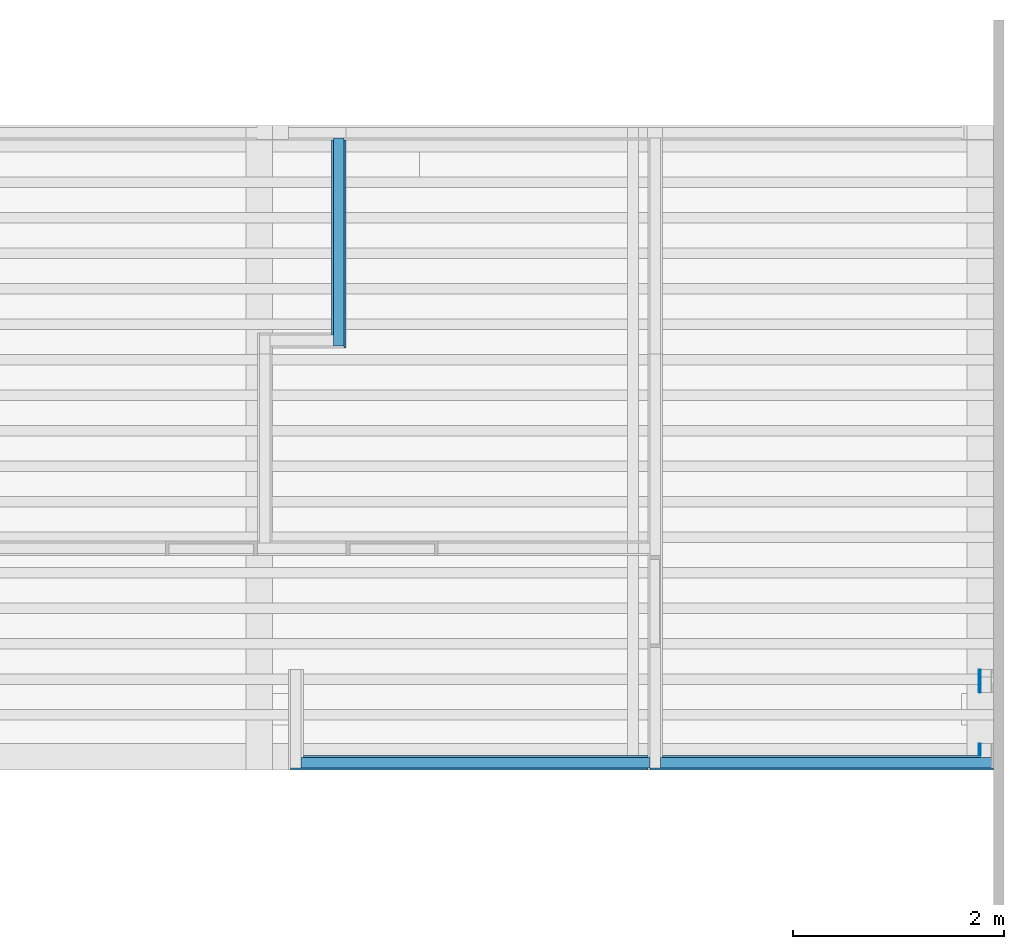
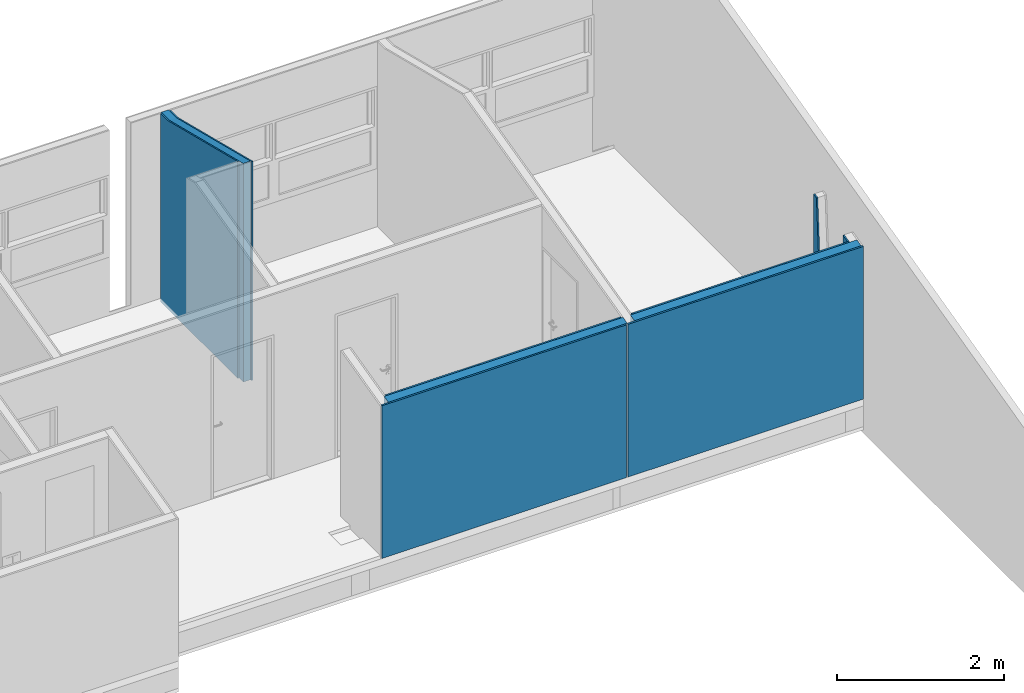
# One storey, part 11 of 13: 10 building element parts, 4 elements without a shape of their own.
"""IFC2X3 building model written with IfcOpenShell, lengths in millimetres."""

import ifcopenshell
import ifcopenshell.guid

model = None  # the IFC model being written
_history = None  # IfcOwnerHistory: only IFC2X3 demands one
_inside = {}  # id of a spatial element -> (the spatial element, [elements in it])
_under = {}  # id of a project, library or spatial element -> (it, [spatial elements below it])
_declared = {}  # id of a project -> (the project, [libraries it declares])
_typed = {}  # id of a type object -> (the type object, [elements of that type])
_made_of = {}  # id of a material, layer set ... -> (it, [elements and type objects made of it])


def new_model(schema):
    """Start an empty IFC model of exactly this schema.

    Asked for "IFC4X3", IfcOpenShell would pick the latest addendum, in which some entities
    have other attributes; the version numbers below select the first issue.
    IFC2X3 requires an IfcOwnerHistory on every rooted entity: one is made here for all.
    """
    global model, _history
    if schema == "IFC4X3":
        model = ifcopenshell.file(schema_version=(4, 3, 0, 0))
    else:
        model = ifcopenshell.file(schema=schema)
    _inside.clear()
    _under.clear()
    _declared.clear()
    _typed.clear()
    _made_of.clear()
    _history = None
    if model.schema == "IFC2X3":
        org = make("IfcOrganization", Name="unknown")
        user = make(
            "IfcPersonAndOrganization",
            ThePerson=make("IfcPerson", FamilyName="unknown"),
            TheOrganization=org,
        )
        app = make(
            "IfcApplication",
            ApplicationDeveloper=org,
            Version="unknown",
            ApplicationFullName="unknown",
            ApplicationIdentifier="unknown",
        )
        _history = make(
            "IfcOwnerHistory",
            OwningUser=user,
            OwningApplication=app,
            ChangeAction="ADDED",
            CreationDate=0,
        )
    return model


def make(cls, **values):
    """One entity of the class cls with the attributes given. An attribute that is None is left unset."""
    return model.create_entity(
        cls, **{name: value for name, value in values.items() if value is not None}
    )


def entity(cls, *values):
    """Any entity or typed value of the class cls, its attributes in the order of the schema. None: left unset."""
    e = model.create_entity(cls)
    for i, value in enumerate(values):
        if value is not None:
            e[i] = value
    return e


def rooted(cls, **values):
    """An entity with a GlobalId (a new one), such as an element, a storey or a relation."""
    return make(cls, GlobalId=ifcopenshell.guid.new(), OwnerHistory=_history, **values)


def si_unit(unit_type, name, prefix=None):
    """IfcSIUnit, for example si_unit("LENGTHUNIT", "METRE", prefix="MILLI")."""
    return make("IfcSIUnit", UnitType=unit_type, Prefix=prefix, Name=name)


def converted_unit(unit_type, name, factor, base, dimensions=None, offset=None):
    """IfcConversionBasedUnit, such as the inch: factor (a typed value) times the base unit."""
    return make(
        "IfcConversionBasedUnit"
        if offset is None
        else "IfcConversionBasedUnitWithOffset",
        ConversionOffset=offset,
        Dimensions=None
        if dimensions is None
        else entity("IfcDimensionalExponents", *dimensions),
        UnitType=unit_type,
        Name=name,
        ConversionFactor=make(
            "IfcMeasureWithUnit", ValueComponent=factor, UnitComponent=base
        ),
    )


def derived_unit(unit_type, elements):
    """IfcDerivedUnit: a product of units, each with its exponent."""
    return make(
        "IfcDerivedUnit",
        Elements=[
            make("IfcDerivedUnitElement", Unit=unit, Exponent=power)
            for unit, power in elements
        ],
        UnitType=unit_type,
    )


def money_unit(currency):
    """IfcMonetaryUnit."""
    return make("IfcMonetaryUnit", Currency=currency)


def assignment(units):
    """IfcUnitAssignment: the units of a project."""
    return None if units is None else make("IfcUnitAssignment", Units=units)


def point(xyz):
    """IfcCartesianPoint."""
    return None if xyz is None else make("IfcCartesianPoint", Coordinates=xyz)


def direction(xyz):
    """IfcDirection."""
    return None if xyz is None else make("IfcDirection", DirectionRatios=xyz)


def frame(location, z_axis=None, x_axis=None):
    """IfcAxis2Placement3D, a coordinate frame: its origin and axes. An axis left out is left unset."""
    return make(
        "IfcAxis2Placement3D",
        Location=point(location),
        Axis=direction(z_axis),
        RefDirection=direction(x_axis),
    )


def origin_with_axes():
    """The frame at (0, 0, 0) with the z axis (0, 0, 1) and the x axis (1, 0, 0) written out."""
    return frame((0.0, 0.0, 0.0), z_axis=(0.0, 0.0, 1.0), x_axis=(1.0, 0.0, 0.0))


def place(relative_to, where):
    """IfcLocalPlacement: puts the frame where relative to a parent placement (None: the world)."""
    return make(
        "IfcLocalPlacement", PlacementRelTo=relative_to, RelativePlacement=where
    )


def context(
    kind, dimensions, precision=None, world=None, true_north=None, identifier=None
):
    """IfcGeometricRepresentationContext, for example the 3D "Model" context."""
    return make(
        "IfcGeometricRepresentationContext",
        ContextIdentifier=identifier,
        ContextType=kind,
        CoordinateSpaceDimension=dimensions,
        Precision=precision,
        WorldCoordinateSystem=world,
        TrueNorth=true_north,
    )


def subcontext(parent, identifier, kind, view, scale=None):
    """IfcGeometricRepresentationSubContext, for example "Body" below "Model"."""
    return make(
        "IfcGeometricRepresentationSubContext",
        ContextIdentifier=identifier,
        ContextType=kind,
        ParentContext=parent,
        TargetScale=scale,
        TargetView=view,
    )


def project(units=None, contexts=None):
    """IfcProject with its units and contexts."""
    return rooted(
        "IfcProject",
        Name="project",
        RepresentationContexts=contexts,
        UnitsInContext=assignment(units),
    )


def spatial(cls, under=None, at=None, **own):
    """A site, building, storey or space (cls), placed at a placement, below another one or the project."""
    s = rooted(cls, ObjectPlacement=at, **own)
    if under is not None:
        _under.setdefault(under.id(), (under, []))[1].append(s)
    return s


def polyline(points):
    """IfcPolyline through the points."""
    return make("IfcPolyline", Points=[point(p) for p in points])


def outline(outer, holes=None, kind="AREA"):
    """IfcArbitraryClosedProfileDef: a profile drawn as a closed curve; with holes, ...WithVoids."""
    if holes is None:
        return make("IfcArbitraryClosedProfileDef", ProfileType=kind, OuterCurve=outer)
    return make(
        "IfcArbitraryProfileDefWithVoids",
        ProfileType=kind,
        OuterCurve=outer,
        InnerCurves=holes,
    )


def extrude(swept, where, along, depth):
    """IfcExtrudedAreaSolid: the profile swept, set in the frame where, extruded along a direction by depth."""
    return make(
        "IfcExtrudedAreaSolid",
        SweptArea=swept,
        Position=where,
        ExtrudedDirection=direction(along),
        Depth=depth,
    )


def boolean(op, a, b):
    """IfcBooleanResult of two solids."""
    return make("IfcBooleanResult", Operator=op, FirstOperand=a, SecondOperand=b)


def faces_of(points, faces, orient=None, outer=None):
    """IfcFace entities. A face is a list of loops; a loop is a list of indices into points, from 0.

    orient and outer hold one flag for each loop. By default every Orientation is true, the
    first loop of a face is its IfcFaceOuterBound and the others are IfcFaceBound.
    """
    made = []
    for i, loops in enumerate(faces):
        bounds = []
        for j, loop in enumerate(loops):
            is_outer = j == 0 if outer is None else outer[i][j]
            bounds.append(
                make(
                    "IfcFaceOuterBound" if is_outer else "IfcFaceBound",
                    Bound=make("IfcPolyLoop", Polygon=[points[k] for k in loop]),
                    Orientation=True if orient is None else orient[i][j],
                )
            )
        made.append(make("IfcFace", Bounds=bounds))
    return made


def faceted_brep(points, faces, orient=None, outer=None, voids=None):
    """IfcFacetedBrep: a solid bounded by flat faces; with voids (closed shells), ...WithVoids."""
    shared = [point(p) for p in points]
    hull = make("IfcClosedShell", CfsFaces=faces_of(shared, faces, orient, outer))
    if voids is None:
        return make("IfcFacetedBrep", Outer=hull)
    return make(
        "IfcFacetedBrepWithVoids",
        Outer=hull,
        Voids=[
            make(cls, CfsFaces=faces_of(shared, fs, o, b)) for cls, fs, o, b in voids
        ],
    )


def shape(context_of_items, identifier, shape_type, items):
    """IfcShapeRepresentation: the items that make up one representation, for example the "Body"."""
    return make(
        "IfcShapeRepresentation",
        ContextOfItems=context_of_items,
        RepresentationIdentifier=identifier,
        RepresentationType=shape_type,
        Items=items,
    )


def material(Name=None, Category=None):
    """IfcMaterial."""
    return make("IfcMaterial", Name=Name, Category=Category)


def made_of(thing, what):
    """Note that an element or type object is made of a material, layer set ...; save() writes the relation."""
    if what is not None:
        _made_of.setdefault(what.id(), (what, []))[1].append(thing)
    return thing


def type_object(cls, material=None, **own):
    """A type object (cls), such as IfcWallType, which elements share."""
    return made_of(rooted(cls, **own), material)


def element(
    cls,
    number,
    at=None,
    inside=None,
    cuts=None,
    type_object=None,
    material=None,
    context=None,
    identifier="Body",
    shape_type=None,
    held_by="IfcProductDefinitionShape",
    body=None,
    shapes=None,
    **own,
):
    """One element of the class cls, such as IfcWall. Its Tag is "e" and its number.

    at: its placement. inside: the storey or other place that contains it. cuts: it is an
    opening in that element (IfcRelVoidsElement). A single representation is given by context,
    identifier, shape_type and body (its items); several are given by shapes. held_by: the class
    of the entity that holds the representations. save() writes the other relations.
    """
    e = rooted(cls, Tag="e%d" % number, ObjectPlacement=at, **own)
    if body is not None:
        shapes = [shape(context, identifier, shape_type, body)]
    if shapes is not None:
        e.Representation = make(held_by, Representations=shapes)
    if inside is not None:
        _inside.setdefault(inside.id(), (inside, []))[1].append(e)
    if cuts is not None:
        rooted(
            "IfcRelVoidsElement", RelatingBuildingElement=cuts, RelatedOpeningElement=e
        )
    if type_object is not None:
        _typed.setdefault(type_object.id(), (type_object, []))[1].append(e)
    return made_of(e, material)


def aggregate(whole, parts):
    """IfcRelAggregates: a whole, such as a stair, and the parts it consists of."""
    return rooted("IfcRelAggregates", RelatingObject=whole, RelatedObjects=parts)


def save(model, path):
    """Write the relations noted so far, then the file.

    IfcRelAggregates (storeys below a building ...), IfcRelContainedInSpatialStructure (elements
    in a storey), IfcRelDefinesByType, IfcRelAssociatesMaterial and IfcRelDeclares: one each for
    every whole, place, type object, material and project.
    """
    for whole, parts in _under.values():
        aggregate(whole, parts)
    for where, things in _inside.values():
        rooted(
            "IfcRelContainedInSpatialStructure",
            RelatedElements=things,
            RelatingStructure=where,
        )
    for kind, things in _typed.values():
        rooted("IfcRelDefinesByType", RelatedObjects=things, RelatingType=kind)
    for what, things in _made_of.values():
        rooted("IfcRelAssociatesMaterial", RelatedObjects=things, RelatingMaterial=what)
    for by, libraries in _declared.values():
        rooted("IfcRelDeclares", RelatingContext=by, RelatedDefinitions=libraries)
    model.write(path)


model = new_model("IFC2X3")

# Units and contexts
model_context = context("Model", 3, precision=0.01, world=origin_with_axes(), true_north=direction((0.293984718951, 0.955810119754)))
body_context = subcontext(model_context, "Body", "Model", "MODEL_VIEW")
ifc_project = project(units=[si_unit("LENGTHUNIT", "METRE", prefix="MILLI"), si_unit("AREAUNIT", "SQUARE_METRE"), si_unit("VOLUMEUNIT", "CUBIC_METRE"), converted_unit("PLANEANGLEUNIT", "DEGREE", entity("IfcPlaneAngleMeasure", 0.0174532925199), si_unit("PLANEANGLEUNIT", "RADIAN"), dimensions=[0, 0, 0, 0, 0, 0, 0]), si_unit("SOLIDANGLEUNIT", "STERADIAN"), money_unit("USD"), converted_unit("TIMEUNIT", "Year", entity("IfcTimeMeasure", 31556926.0), si_unit("TIMEUNIT", "SECOND"), dimensions=[0, 0, 1, 0, 0, 0, 0]), si_unit("MASSUNIT", "GRAM", prefix="KILO"), si_unit("THERMODYNAMICTEMPERATUREUNIT", "DEGREE_CELSIUS"), si_unit("LUMINOUSINTENSITYUNIT", "LUMEN"), si_unit("ENERGYUNIT", "JOULE", prefix="MEGA"), derived_unit("THERMALCONDUCTANCEUNIT", [(si_unit("POWERUNIT", "WATT"), 1), (si_unit("LENGTHUNIT", "METRE"), -1), (si_unit("THERMODYNAMICTEMPERATUREUNIT", "KELVIN"), -1)]), derived_unit("SPECIFICHEATCAPACITYUNIT", [(si_unit("ENERGYUNIT", "JOULE"), 1), (si_unit("MASSUNIT", "GRAM", prefix="KILO"), -1), (si_unit("THERMODYNAMICTEMPERATUREUNIT", "KELVIN"), -1)]), derived_unit("MASSDENSITYUNIT", [(si_unit("MASSUNIT", "GRAM", prefix="KILO"), 1), (si_unit("VOLUMEUNIT", "CUBIC_METRE"), -1)])], contexts=[model_context])

# Site, building, storey
site_placement = place(None, origin_with_axes())
site = spatial("IfcSite", under=ifc_project, at=site_placement, Name="Local", CompositionType="ELEMENT")
building_placement = place(site_placement, origin_with_axes())
building = spatial("IfcBuilding", under=site, at=building_placement, Name="Construção", CompositionType="ELEMENT")
storey_placement = place(building_placement, frame((0.0, 0.0, 3050.0), z_axis=(0.0, 0.0, 1.0), x_axis=(1.0, 0.0, 0.0)))
storey = spatial("IfcBuildingStorey", under=building, at=storey_placement, Name="Primeiro Pavimento", CompositionType="ELEMENT", Elevation=3050.0)

# Wall, building element parts
wall_type = type_object("IfcWallType", Name="Alvenaria Tijolo Maciço com Revestimento 14cm 140", PredefinedType="NOTDEFINED")
wall_1_placement = place(storey_placement, frame((14454.6450727, 12950.6321979, 0.0), z_axis=(0.0, 0.0, 1.0), x_axis=(0.0, -1.0, 0.0)))
wall_1 = element("IfcWall", 1, at=wall_1_placement, inside=storey, type_object=wall_type, Name="Parede")
ifc_material_1 = material(Name="Reboco (1)")
building_element_part_1_placement = place(wall_1_placement, origin_with_axes())
building_element_part_1 = element("IfcBuildingElementPart", 2, at=building_element_part_1_placement, material=ifc_material_1, Name="Reboco (1)", context=body_context, shape_type="CSG", body=[
    boolean("DIFFERENCE", boolean("DIFFERENCE", boolean("DIFFERENCE", extrude(outline(polyline([(-9.18554121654e-09, -70.0), (2105.0, -70.0), (2105.0, -50.0), (-9.18554121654e-09, -50.0), (-9.18554121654e-09, -70.0)])), origin_with_axes(), (0.0, 0.0, 1.0), 3211.87314734), faceted_brep([(1985.0, -50.0, 3167.41155691), (310.825699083, -50.0, 2749.9930219), (139.999999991, -50.0, 2749.99302172), (139.999999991, -50.0, 0.0), (-9.18554121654e-09, -50.0, 0.0), (-9.18554121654e-09, -50.0, 3211.87314734), (2105.0, -50.0, 3211.87314734), (2105.0, -50.0, 0.0), (1985.0, -50.0, 0.0), (1985.0, -70.0, 3167.41155691), (310.825699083, -70.0, 2749.9930219), (139.999999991, -70.0, 2749.99302172), (139.999999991, -70.0, 0.0), (-9.18554121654e-09, -70.0, 0.0), (-9.18554121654e-09, -70.0, 3211.87314734), (2105.0, -70.0, 3211.87314734), (2105.0, -70.0, 0.0), (1985.0, -70.0, 0.0)], [[[0, 1, 2, 3, 4, 5, 6, 7, 8]], [[9, 10, 1, 0]], [[10, 11, 2, 1]], [[3, 2, 11, 12]], [[3, 12, 13, 4]], [[5, 4, 13, 14]], [[5, 14, 15, 6]], [[15, 16, 7, 6]], [[17, 8, 7, 16]], [[0, 8, 17, 9]], [[9, 17, 16, 15, 14, 13, 12, 11, 10]]])), faceted_brep([(310.825699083, 50.0, 2749.9930219), (119.999999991, 50.0, 2749.99302172), (119.999999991, 50.0, 0.0), (-9.18554121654e-09, 50.0, 0.0), (-9.18554121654e-09, 50.0, 3211.87314734), (2105.0, 50.0, 3211.87314734), (2105.0, 50.0, 0.0), (2085.0, 50.0, 0.0), (2085.0, 50.0, 3192.3443572), (310.825699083, -50.0, 2749.9930219), (119.999999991, -50.0, 2749.99302172), (119.999999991, -50.0, 0.0), (-9.18554121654e-09, -50.0, 0.0), (-9.18554121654e-09, -50.0, 3211.87314734), (2105.0, -50.0, 3211.87314734), (2105.0, -50.0, 0.0), (2085.0, -50.0, 0.0), (2085.0, -50.0, 3192.3443572)], [[[0, 1, 2, 3, 4, 5, 6, 7, 8]], [[1, 0, 9, 10]], [[2, 1, 10, 11]], [[2, 11, 12, 3]], [[4, 3, 12, 13]], [[4, 13, 14, 5]], [[14, 15, 6, 5]], [[16, 7, 6, 15]], [[8, 7, 16, 17]], [[17, 9, 0, 8]], [[17, 16, 15, 14, 13, 12, 11, 10, 9]]])), faceted_brep([(2105.0, 70.0, 3197.33091725), (310.825699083, 70.0, 2749.9930219), (139.999999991, 70.0, 2749.99302172), (139.999999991, 70.0, 0.0), (-9.18554121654e-09, 70.0, 0.0), (-9.18554121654e-09, 70.0, 3211.87314734), (2105.0, 70.0, 3211.87314734), (2105.0, 50.0, 3197.33091725), (310.825699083, 50.0, 2749.9930219), (139.999999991, 50.0, 2749.99302174), (139.999999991, 50.0, 0.0), (-9.18554121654e-09, 50.0, 0.0), (-9.18554121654e-09, 50.0, 3211.87314734), (2105.0, 50.0, 3211.87314734)], [[[0, 1, 2, 3, 4, 5, 6]], [[1, 0, 7, 8]], [[2, 1, 8, 9]], [[3, 2, 9, 10]], [[3, 10, 11, 4]], [[5, 4, 11, 12]], [[5, 12, 13, 6]], [[7, 0, 6, 13]], [[7, 13, 12, 11, 10, 9, 8]]])),
])
ifc_material_2 = material(Name="Tijolo - Estrutural (1)")
building_element_part_2_placement = place(wall_1_placement, origin_with_axes())
building_element_part_2 = element("IfcBuildingElementPart", 3, at=building_element_part_2_placement, material=ifc_material_2, Name="Tijolo - Estrutural (1)", context=body_context, shape_type="CSG", body=[
    boolean("DIFFERENCE", boolean("DIFFERENCE", boolean("DIFFERENCE", extrude(outline(polyline([(-9.18554121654e-09, -50.0), (2105.0, -50.0), (2105.0, 50.0), (-9.18554121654e-09, 50.0), (-9.18554121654e-09, -50.0)])), origin_with_axes(), (0.0, 0.0, 1.0), 3211.87314734), faceted_brep([(1985.0, -50.0, 3167.41155691), (310.825699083, -50.0, 2749.9930219), (139.999999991, -50.0, 2749.99302172), (139.999999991, -50.0, 0.0), (-9.18554121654e-09, -50.0, 0.0), (-9.18554121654e-09, -50.0, 3211.87314734), (2105.0, -50.0, 3211.87314734), (2105.0, -50.0, 0.0), (1985.0, -50.0, 0.0), (1985.0, -70.0, 3167.41155691), (310.825699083, -70.0, 2749.9930219), (139.999999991, -70.0, 2749.99302172), (139.999999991, -70.0, 0.0), (-9.18554121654e-09, -70.0, 0.0), (-9.18554121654e-09, -70.0, 3211.87314734), (2105.0, -70.0, 3211.87314734), (2105.0, -70.0, 0.0), (1985.0, -70.0, 0.0)], [[[0, 1, 2, 3, 4, 5, 6, 7, 8]], [[9, 10, 1, 0]], [[10, 11, 2, 1]], [[3, 2, 11, 12]], [[3, 12, 13, 4]], [[5, 4, 13, 14]], [[5, 14, 15, 6]], [[15, 16, 7, 6]], [[17, 8, 7, 16]], [[0, 8, 17, 9]], [[9, 17, 16, 15, 14, 13, 12, 11, 10]]])), faceted_brep([(310.825699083, 50.0, 2749.9930219), (119.999999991, 50.0, 2749.99302172), (119.999999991, 50.0, 0.0), (-9.18554121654e-09, 50.0, 0.0), (-9.18554121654e-09, 50.0, 3211.87314734), (2105.0, 50.0, 3211.87314734), (2105.0, 50.0, 0.0), (2085.0, 50.0, 0.0), (2085.0, 50.0, 3192.3443572), (310.825699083, -50.0, 2749.9930219), (119.999999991, -50.0, 2749.99302172), (119.999999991, -50.0, 0.0), (-9.18554121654e-09, -50.0, 0.0), (-9.18554121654e-09, -50.0, 3211.87314734), (2105.0, -50.0, 3211.87314734), (2105.0, -50.0, 0.0), (2085.0, -50.0, 0.0), (2085.0, -50.0, 3192.3443572)], [[[0, 1, 2, 3, 4, 5, 6, 7, 8]], [[1, 0, 9, 10]], [[2, 1, 10, 11]], [[2, 11, 12, 3]], [[4, 3, 12, 13]], [[4, 13, 14, 5]], [[14, 15, 6, 5]], [[16, 7, 6, 15]], [[8, 7, 16, 17]], [[17, 9, 0, 8]], [[17, 16, 15, 14, 13, 12, 11, 10, 9]]])), faceted_brep([(2105.0, 70.0, 3197.33091725), (310.825699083, 70.0, 2749.9930219), (139.999999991, 70.0, 2749.99302172), (139.999999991, 70.0, 0.0), (-9.18554121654e-09, 70.0, 0.0), (-9.18554121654e-09, 70.0, 3211.87314734), (2105.0, 70.0, 3211.87314734), (2105.0, 50.0, 3197.33091725), (310.825699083, 50.0, 2749.9930219), (139.999999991, 50.0, 2749.99302174), (139.999999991, 50.0, 0.0), (-9.18554121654e-09, 50.0, 0.0), (-9.18554121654e-09, 50.0, 3211.87314734), (2105.0, 50.0, 3211.87314734)], [[[0, 1, 2, 3, 4, 5, 6]], [[1, 0, 7, 8]], [[2, 1, 8, 9]], [[3, 2, 9, 10]], [[3, 10, 11, 4]], [[5, 4, 11, 12]], [[5, 12, 13, 6]], [[7, 0, 6, 13]], [[7, 13, 12, 11, 10, 9, 8]]])),
])
building_element_part_3_placement = place(wall_1_placement, origin_with_axes())
building_element_part_3 = element("IfcBuildingElementPart", 4, at=building_element_part_3_placement, material=ifc_material_1, Name="Reboco (1)", context=body_context, shape_type="CSG", body=[
    boolean("DIFFERENCE", boolean("DIFFERENCE", boolean("DIFFERENCE", extrude(outline(polyline([(-9.18554121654e-09, 50.0), (2105.0, 50.0), (2105.0, 70.0), (-9.18554121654e-09, 70.0), (-9.18554121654e-09, 50.0)])), origin_with_axes(), (0.0, 0.0, 1.0), 3211.87314734), faceted_brep([(1985.0, -50.0, 3167.41155691), (310.825699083, -50.0, 2749.9930219), (139.999999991, -50.0, 2749.99302172), (139.999999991, -50.0, 0.0), (-9.18554121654e-09, -50.0, 0.0), (-9.18554121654e-09, -50.0, 3211.87314734), (2105.0, -50.0, 3211.87314734), (2105.0, -50.0, 0.0), (1985.0, -50.0, 0.0), (1985.0, -70.0, 3167.41155691), (310.825699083, -70.0, 2749.9930219), (139.999999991, -70.0, 2749.99302172), (139.999999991, -70.0, 0.0), (-9.18554121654e-09, -70.0, 0.0), (-9.18554121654e-09, -70.0, 3211.87314734), (2105.0, -70.0, 3211.87314734), (2105.0, -70.0, 0.0), (1985.0, -70.0, 0.0)], [[[0, 1, 2, 3, 4, 5, 6, 7, 8]], [[9, 10, 1, 0]], [[10, 11, 2, 1]], [[3, 2, 11, 12]], [[3, 12, 13, 4]], [[5, 4, 13, 14]], [[5, 14, 15, 6]], [[15, 16, 7, 6]], [[17, 8, 7, 16]], [[0, 8, 17, 9]], [[9, 17, 16, 15, 14, 13, 12, 11, 10]]])), faceted_brep([(310.825699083, 50.0, 2749.9930219), (119.999999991, 50.0, 2749.99302172), (119.999999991, 50.0, 0.0), (-9.18554121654e-09, 50.0, 0.0), (-9.18554121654e-09, 50.0, 3211.87314734), (2105.0, 50.0, 3211.87314734), (2105.0, 50.0, 0.0), (2085.0, 50.0, 0.0), (2085.0, 50.0, 3192.3443572), (310.825699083, -50.0, 2749.9930219), (119.999999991, -50.0, 2749.99302172), (119.999999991, -50.0, 0.0), (-9.18554121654e-09, -50.0, 0.0), (-9.18554121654e-09, -50.0, 3211.87314734), (2105.0, -50.0, 3211.87314734), (2105.0, -50.0, 0.0), (2085.0, -50.0, 0.0), (2085.0, -50.0, 3192.3443572)], [[[0, 1, 2, 3, 4, 5, 6, 7, 8]], [[1, 0, 9, 10]], [[2, 1, 10, 11]], [[2, 11, 12, 3]], [[4, 3, 12, 13]], [[4, 13, 14, 5]], [[14, 15, 6, 5]], [[16, 7, 6, 15]], [[8, 7, 16, 17]], [[17, 9, 0, 8]], [[17, 16, 15, 14, 13, 12, 11, 10, 9]]])), faceted_brep([(2105.0, 70.0, 3197.33091725), (310.825699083, 70.0, 2749.9930219), (139.999999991, 70.0, 2749.99302172), (139.999999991, 70.0, 0.0), (-9.18554121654e-09, 70.0, 0.0), (-9.18554121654e-09, 70.0, 3211.87314734), (2105.0, 70.0, 3211.87314734), (2105.0, 50.0, 3197.33091725), (310.825699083, 50.0, 2749.9930219), (139.999999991, 50.0, 2749.99302174), (139.999999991, 50.0, 0.0), (-9.18554121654e-09, 50.0, 0.0), (-9.18554121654e-09, 50.0, 3211.87314734), (2105.0, 50.0, 3211.87314734)], [[[0, 1, 2, 3, 4, 5, 6]], [[1, 0, 7, 8]], [[2, 1, 8, 9]], [[3, 2, 9, 10]], [[3, 10, 11, 4]], [[5, 4, 11, 12]], [[5, 12, 13, 6]], [[7, 0, 6, 13]], [[7, 13, 12, 11, 10, 9, 8]]])),
])
aggregate(wall_1, [building_element_part_1, building_element_part_2, building_element_part_3])

wall_2_placement = place(storey_placement, frame((17449.6450727, 6920.63219788, 0.0), z_axis=(0.0, 0.0, 1.0), x_axis=(1.0, 0.0, 0.0)))
wall_2 = element("IfcWall", 5, at=wall_2_placement, inside=storey, type_object=wall_type, Name="Parede")
building_element_part_4_placement = place(wall_2_placement, origin_with_axes())
building_element_part_4 = element("IfcBuildingElementPart", 6, at=building_element_part_4_placement, material=ifc_material_1, Name="Reboco (1)", context=body_context, shape_type="CSG", body=[
    boolean("DIFFERENCE", boolean("DIFFERENCE", boolean("DIFFERENCE", extrude(outline(polyline([(-70.0, -70.0), (3199.99999997, -70.0), (3199.99999997, -50.0), (-70.0, -50.0), (-70.0, -70.0)])), origin_with_axes(), (0.0, 0.0, 1.0), 3211.87314734), faceted_brep([(3199.99999946, -70.0000000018, 2230.35000606), (3199.99999945, -50.0, 2235.33656611), (3199.99999997, -50.0, 3211.87314734), (3199.99999997, -70.0, 3211.87314734), (-50.0, -70.0, 2230.35000606), (-50.0, -50.0, 2235.33656611), (-50.0, -50.0, 0.0), (-70.0, -50.0, 0.0), (-70.0, -50.0, 3211.87314734), (-70.0, -70.0, 3211.87314734), (-70.0, -70.0, 0.0), (-50.0, -70.0, 0.0)], [[[0, 1, 2, 3]], [[1, 0, 4, 5]], [[5, 6, 7, 8, 2, 1]], [[8, 9, 3, 2]], [[4, 0, 3, 9, 10, 11]], [[6, 5, 4, 11]], [[6, 11, 10, 7]], [[8, 7, 10, 9]]])), faceted_brep([(50.0, 50.0, 2260.2693664), (50.0, 50.0, 0.0), (-70.0, 50.0, 0.0), (-70.0, 50.0, 3211.87314734), (3199.99999997, 50.0, 3211.87314734), (3199.99999997, 50.0, 0.0), (3179.99999997, 50.0, 0.0), (3179.99999997, 50.0, 2260.2693664), (50.0, -50.0, 2235.33656611), (50.0, -50.0, 0.0), (-70.0, -50.0, 0.0), (-70.0, -50.0, 3211.87314734), (3199.99999997, -50.0, 3211.87314734), (3199.99999997, -50.0, 0.0), (3179.99999997, -50.0, 0.0), (3179.99999997, -50.0, 2235.33656611)], [[[0, 1, 2, 3, 4, 5, 6, 7]], [[1, 0, 8, 9]], [[1, 9, 10, 2]], [[3, 2, 10, 11]], [[3, 11, 12, 4]], [[12, 13, 5, 4]], [[14, 6, 5, 13]], [[7, 6, 14, 15]], [[7, 15, 8, 0]], [[15, 14, 13, 12, 11, 10, 9, 8]]])), faceted_brep([(70.0, 70.0, 2265.25592646), (70.0, 70.0, 0.0), (-70.0, 70.0, 0.0), (-70.0, 70.0, 3211.87314734), (3199.99999997, 70.0, 3211.87314734), (3199.99999997, 70.0, 0.0), (3079.99999997, 70.0, 0.0), (3079.99999997, 70.0, 2265.25592646), (70.0, 50.0, 2260.2693664), (70.0, 50.0, 0.0), (-70.0, 50.0, 0.0), (-70.0, 50.0, 3211.87314734), (3199.99999997, 50.0, 3211.87314734), (3199.99999997, 50.0, 0.0), (3079.99999997, 50.0, 0.0), (3079.99999997, 50.0, 2260.2693664)], [[[0, 1, 2, 3, 4, 5, 6, 7]], [[1, 0, 8, 9]], [[1, 9, 10, 2]], [[3, 2, 10, 11]], [[3, 11, 12, 4]], [[12, 13, 5, 4]], [[14, 6, 5, 13]], [[7, 6, 14, 15]], [[0, 7, 15, 8]], [[15, 14, 13, 12, 11, 10, 9, 8]]])),
])
building_element_part_5_placement = place(wall_2_placement, origin_with_axes())
building_element_part_5 = element("IfcBuildingElementPart", 7, at=building_element_part_5_placement, material=ifc_material_2, Name="Tijolo - Estrutural (1)", context=body_context, shape_type="CSG", body=[
    boolean("DIFFERENCE", boolean("DIFFERENCE", boolean("DIFFERENCE", extrude(outline(polyline([(-70.0, -50.0), (3199.99999997, -50.0), (3199.99999997, 50.0), (-70.0, 50.0), (-70.0, -50.0)])), origin_with_axes(), (0.0, 0.0, 1.0), 3211.87314734), faceted_brep([(3199.99999946, -70.0000000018, 2230.35000606), (3199.99999945, -50.0, 2235.33656611), (3199.99999997, -50.0, 3211.87314734), (3199.99999997, -70.0, 3211.87314734), (-50.0, -70.0, 2230.35000606), (-50.0, -50.0, 2235.33656611), (-50.0, -50.0, 0.0), (-70.0, -50.0, 0.0), (-70.0, -50.0, 3211.87314734), (-70.0, -70.0, 3211.87314734), (-70.0, -70.0, 0.0), (-50.0, -70.0, 0.0)], [[[0, 1, 2, 3]], [[1, 0, 4, 5]], [[5, 6, 7, 8, 2, 1]], [[8, 9, 3, 2]], [[4, 0, 3, 9, 10, 11]], [[6, 5, 4, 11]], [[6, 11, 10, 7]], [[8, 7, 10, 9]]])), faceted_brep([(50.0, 50.0, 2260.2693664), (50.0, 50.0, 0.0), (-70.0, 50.0, 0.0), (-70.0, 50.0, 3211.87314734), (3199.99999997, 50.0, 3211.87314734), (3199.99999997, 50.0, 0.0), (3179.99999997, 50.0, 0.0), (3179.99999997, 50.0, 2260.2693664), (50.0, -50.0, 2235.33656611), (50.0, -50.0, 0.0), (-70.0, -50.0, 0.0), (-70.0, -50.0, 3211.87314734), (3199.99999997, -50.0, 3211.87314734), (3199.99999997, -50.0, 0.0), (3179.99999997, -50.0, 0.0), (3179.99999997, -50.0, 2235.33656611)], [[[0, 1, 2, 3, 4, 5, 6, 7]], [[1, 0, 8, 9]], [[1, 9, 10, 2]], [[3, 2, 10, 11]], [[3, 11, 12, 4]], [[12, 13, 5, 4]], [[14, 6, 5, 13]], [[7, 6, 14, 15]], [[7, 15, 8, 0]], [[15, 14, 13, 12, 11, 10, 9, 8]]])), faceted_brep([(70.0, 70.0, 2265.25592646), (70.0, 70.0, 0.0), (-70.0, 70.0, 0.0), (-70.0, 70.0, 3211.87314734), (3199.99999997, 70.0, 3211.87314734), (3199.99999997, 70.0, 0.0), (3079.99999997, 70.0, 0.0), (3079.99999997, 70.0, 2265.25592646), (70.0, 50.0, 2260.2693664), (70.0, 50.0, 0.0), (-70.0, 50.0, 0.0), (-70.0, 50.0, 3211.87314734), (3199.99999997, 50.0, 3211.87314734), (3199.99999997, 50.0, 0.0), (3079.99999997, 50.0, 0.0), (3079.99999997, 50.0, 2260.2693664)], [[[0, 1, 2, 3, 4, 5, 6, 7]], [[1, 0, 8, 9]], [[1, 9, 10, 2]], [[3, 2, 10, 11]], [[3, 11, 12, 4]], [[12, 13, 5, 4]], [[14, 6, 5, 13]], [[7, 6, 14, 15]], [[0, 7, 15, 8]], [[15, 14, 13, 12, 11, 10, 9, 8]]])),
])
building_element_part_6_placement = place(wall_2_placement, origin_with_axes())
building_element_part_6 = element("IfcBuildingElementPart", 8, at=building_element_part_6_placement, material=ifc_material_1, Name="Reboco (1)", context=body_context, shape_type="CSG", body=[
    boolean("DIFFERENCE", boolean("DIFFERENCE", boolean("DIFFERENCE", extrude(outline(polyline([(-70.0, 50.0), (3199.99999997, 50.0), (3199.99999997, 70.0), (-70.0, 70.0), (-70.0, 50.0)])), origin_with_axes(), (0.0, 0.0, 1.0), 3211.87314734), faceted_brep([(3199.99999946, -70.0000000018, 2230.35000606), (3199.99999945, -50.0, 2235.33656611), (3199.99999997, -50.0, 3211.87314734), (3199.99999997, -70.0, 3211.87314734), (-50.0, -70.0, 2230.35000606), (-50.0, -50.0, 2235.33656611), (-50.0, -50.0, 0.0), (-70.0, -50.0, 0.0), (-70.0, -50.0, 3211.87314734), (-70.0, -70.0, 3211.87314734), (-70.0, -70.0, 0.0), (-50.0, -70.0, 0.0)], [[[0, 1, 2, 3]], [[1, 0, 4, 5]], [[5, 6, 7, 8, 2, 1]], [[8, 9, 3, 2]], [[4, 0, 3, 9, 10, 11]], [[6, 5, 4, 11]], [[6, 11, 10, 7]], [[8, 7, 10, 9]]])), faceted_brep([(50.0, 50.0, 2260.2693664), (50.0, 50.0, 0.0), (-70.0, 50.0, 0.0), (-70.0, 50.0, 3211.87314734), (3199.99999997, 50.0, 3211.87314734), (3199.99999997, 50.0, 0.0), (3179.99999997, 50.0, 0.0), (3179.99999997, 50.0, 2260.2693664), (50.0, -50.0, 2235.33656611), (50.0, -50.0, 0.0), (-70.0, -50.0, 0.0), (-70.0, -50.0, 3211.87314734), (3199.99999997, -50.0, 3211.87314734), (3199.99999997, -50.0, 0.0), (3179.99999997, -50.0, 0.0), (3179.99999997, -50.0, 2235.33656611)], [[[0, 1, 2, 3, 4, 5, 6, 7]], [[1, 0, 8, 9]], [[1, 9, 10, 2]], [[3, 2, 10, 11]], [[3, 11, 12, 4]], [[12, 13, 5, 4]], [[14, 6, 5, 13]], [[7, 6, 14, 15]], [[7, 15, 8, 0]], [[15, 14, 13, 12, 11, 10, 9, 8]]])), faceted_brep([(70.0, 70.0, 2265.25592646), (70.0, 70.0, 0.0), (-70.0, 70.0, 0.0), (-70.0, 70.0, 3211.87314734), (3199.99999997, 70.0, 3211.87314734), (3199.99999997, 70.0, 0.0), (3079.99999997, 70.0, 0.0), (3079.99999997, 70.0, 2265.25592646), (70.0, 50.0, 2260.2693664), (70.0, 50.0, 0.0), (-70.0, 50.0, 0.0), (-70.0, 50.0, 3211.87314734), (3199.99999997, 50.0, 3211.87314734), (3199.99999997, 50.0, 0.0), (3079.99999997, 50.0, 0.0), (3079.99999997, 50.0, 2260.2693664)], [[[0, 1, 2, 3, 4, 5, 6, 7]], [[1, 0, 8, 9]], [[1, 9, 10, 2]], [[3, 2, 10, 11]], [[3, 11, 12, 4]], [[12, 13, 5, 4]], [[14, 6, 5, 13]], [[7, 6, 14, 15]], [[0, 7, 15, 8]], [[15, 14, 13, 12, 11, 10, 9, 8]]])),
])
aggregate(wall_2, [building_element_part_4, building_element_part_5, building_element_part_6])

wall_3_placement = place(storey_placement, frame((14049.6450727, 6920.63219788, 0.0), z_axis=(0.0, 0.0, 1.0), x_axis=(1.0, 0.0, 0.0)))
wall_3 = element("IfcWall", 9, at=wall_3_placement, inside=storey, type_object=wall_type, Name="Parede")
building_element_part_7_placement = place(wall_3_placement, origin_with_axes())
building_element_part_7 = element("IfcBuildingElementPart", 10, at=building_element_part_7_placement, material=ifc_material_1, Name="Reboco (1)", context=body_context, shape_type="CSG", body=[
    boolean("DIFFERENCE", boolean("DIFFERENCE", boolean("DIFFERENCE", extrude(outline(polyline([(-70.0, -70.0), (3470.00000003, -70.0), (3470.00000003, -50.0), (-70.0, -50.0), (-70.0, -70.0)])), origin_with_axes(), (0.0, 0.0, 1.0), 3211.87314734), faceted_brep([(-50.0, -50.0, 2235.33656611), (-50.0, -50.0, 0.0), (-70.0, -50.0, 0.0), (-70.0, -50.0, 3211.87314734), (3470.00000003, -50.0, 3211.87314734), (3470.00000003, -50.0, 0.0), (3330.00000003, -50.0, 0.0), (3330.00000003, -50.0, 2235.33656611), (-50.0, -70.0, 2230.35000606), (-50.0, -70.0, 0.0), (-70.0, -70.0, 0.0), (-70.0, -70.0, 3211.87314734), (3470.00000003, -70.0, 3211.87314734), (3470.00000003, -70.0, 0.0), (3330.00000003, -70.0, 0.0), (3330.00000003, -70.0, 2230.35000606)], [[[0, 1, 2, 3, 4, 5, 6, 7]], [[1, 0, 8, 9]], [[1, 9, 10, 2]], [[3, 2, 10, 11]], [[3, 11, 12, 4]], [[12, 13, 5, 4]], [[14, 6, 5, 13]], [[7, 6, 14, 15]], [[15, 8, 0, 7]], [[15, 14, 13, 12, 11, 10, 9, 8]]])), faceted_brep([(50.0, 50.0, 2260.2693664), (50.0, 50.0, 0.0), (-70.0, 50.0, 0.0), (-70.0, 50.0, 3211.87314734), (3470.00000003, 50.0, 3211.87314734), (3470.00000003, 50.0, 0.0), (3350.00000003, 50.0, 0.0), (3350.00000003, 50.0, 2260.2693664), (50.0, -50.0, 2235.33656611), (50.0, -50.0, 0.0), (-70.0, -50.0, 0.0), (-70.0, -50.0, 3211.87314734), (3470.00000003, -50.0, 3211.87314734), (3470.00000003, -50.0, 0.0), (3350.00000003, -50.0, 0.0), (3350.00000003, -50.0, 2235.33656611)], [[[0, 1, 2, 3, 4, 5, 6, 7]], [[1, 0, 8, 9]], [[1, 9, 10, 2]], [[3, 2, 10, 11]], [[3, 11, 12, 4]], [[12, 13, 5, 4]], [[14, 6, 5, 13]], [[7, 6, 14, 15]], [[7, 15, 8, 0]], [[15, 14, 13, 12, 11, 10, 9, 8]]])), faceted_brep([(70.0, 70.0, 2265.25592646), (70.0, 70.0, 0.0), (-70.0, 70.0, 0.0), (-70.0, 70.0, 3211.87314734), (3470.00000003, 70.0, 3211.87314734), (3470.00000003, 70.0, 0.0), (3330.00000003, 70.0, 0.0), (3330.00000003, 70.0, 2265.25592646), (70.0, 50.0, 2260.2693664), (70.0, 50.0, 0.0), (-70.0, 50.0, 0.0), (-70.0, 50.0, 3211.87314734), (3470.00000003, 50.0, 3211.87314734), (3470.00000003, 50.0, 0.0), (3330.00000003, 50.0, 0.0), (3330.00000003, 50.0, 2260.2693664)], [[[0, 1, 2, 3, 4, 5, 6, 7]], [[1, 0, 8, 9]], [[1, 9, 10, 2]], [[3, 2, 10, 11]], [[3, 11, 12, 4]], [[12, 13, 5, 4]], [[14, 6, 5, 13]], [[7, 6, 14, 15]], [[0, 7, 15, 8]], [[15, 14, 13, 12, 11, 10, 9, 8]]])),
])
building_element_part_8_placement = place(wall_3_placement, origin_with_axes())
building_element_part_8 = element("IfcBuildingElementPart", 11, at=building_element_part_8_placement, material=ifc_material_2, Name="Tijolo - Estrutural (1)", context=body_context, shape_type="CSG", body=[
    boolean("DIFFERENCE", boolean("DIFFERENCE", boolean("DIFFERENCE", extrude(outline(polyline([(-70.0, -50.0), (3470.00000003, -50.0), (3470.00000003, 50.0), (-70.0, 50.0), (-70.0, -50.0)])), origin_with_axes(), (0.0, 0.0, 1.0), 3211.87314734), faceted_brep([(-50.0, -50.0, 2235.33656611), (-50.0, -50.0, 0.0), (-70.0, -50.0, 0.0), (-70.0, -50.0, 3211.87314734), (3470.00000003, -50.0, 3211.87314734), (3470.00000003, -50.0, 0.0), (3330.00000003, -50.0, 0.0), (3330.00000003, -50.0, 2235.33656611), (-50.0, -70.0, 2230.35000606), (-50.0, -70.0, 0.0), (-70.0, -70.0, 0.0), (-70.0, -70.0, 3211.87314734), (3470.00000003, -70.0, 3211.87314734), (3470.00000003, -70.0, 0.0), (3330.00000003, -70.0, 0.0), (3330.00000003, -70.0, 2230.35000606)], [[[0, 1, 2, 3, 4, 5, 6, 7]], [[1, 0, 8, 9]], [[1, 9, 10, 2]], [[3, 2, 10, 11]], [[3, 11, 12, 4]], [[12, 13, 5, 4]], [[14, 6, 5, 13]], [[7, 6, 14, 15]], [[15, 8, 0, 7]], [[15, 14, 13, 12, 11, 10, 9, 8]]])), faceted_brep([(50.0, 50.0, 2260.2693664), (50.0, 50.0, 0.0), (-70.0, 50.0, 0.0), (-70.0, 50.0, 3211.87314734), (3470.00000003, 50.0, 3211.87314734), (3470.00000003, 50.0, 0.0), (3350.00000003, 50.0, 0.0), (3350.00000003, 50.0, 2260.2693664), (50.0, -50.0, 2235.33656611), (50.0, -50.0, 0.0), (-70.0, -50.0, 0.0), (-70.0, -50.0, 3211.87314734), (3470.00000003, -50.0, 3211.87314734), (3470.00000003, -50.0, 0.0), (3350.00000003, -50.0, 0.0), (3350.00000003, -50.0, 2235.33656611)], [[[0, 1, 2, 3, 4, 5, 6, 7]], [[1, 0, 8, 9]], [[1, 9, 10, 2]], [[3, 2, 10, 11]], [[3, 11, 12, 4]], [[12, 13, 5, 4]], [[14, 6, 5, 13]], [[7, 6, 14, 15]], [[7, 15, 8, 0]], [[15, 14, 13, 12, 11, 10, 9, 8]]])), faceted_brep([(70.0, 70.0, 2265.25592646), (70.0, 70.0, 0.0), (-70.0, 70.0, 0.0), (-70.0, 70.0, 3211.87314734), (3470.00000003, 70.0, 3211.87314734), (3470.00000003, 70.0, 0.0), (3330.00000003, 70.0, 0.0), (3330.00000003, 70.0, 2265.25592646), (70.0, 50.0, 2260.2693664), (70.0, 50.0, 0.0), (-70.0, 50.0, 0.0), (-70.0, 50.0, 3211.87314734), (3470.00000003, 50.0, 3211.87314734), (3470.00000003, 50.0, 0.0), (3330.00000003, 50.0, 0.0), (3330.00000003, 50.0, 2260.2693664)], [[[0, 1, 2, 3, 4, 5, 6, 7]], [[1, 0, 8, 9]], [[1, 9, 10, 2]], [[3, 2, 10, 11]], [[3, 11, 12, 4]], [[12, 13, 5, 4]], [[14, 6, 5, 13]], [[7, 6, 14, 15]], [[0, 7, 15, 8]], [[15, 14, 13, 12, 11, 10, 9, 8]]])),
])
building_element_part_9_placement = place(wall_3_placement, origin_with_axes())
building_element_part_9 = element("IfcBuildingElementPart", 12, at=building_element_part_9_placement, material=ifc_material_1, Name="Reboco (1)", context=body_context, shape_type="CSG", body=[
    boolean("DIFFERENCE", boolean("DIFFERENCE", boolean("DIFFERENCE", extrude(outline(polyline([(-70.0, 50.0), (3470.00000003, 50.0), (3470.00000003, 70.0), (-70.0, 70.0), (-70.0, 50.0)])), origin_with_axes(), (0.0, 0.0, 1.0), 3211.87314734), faceted_brep([(-50.0, -50.0, 2235.33656611), (-50.0, -50.0, 0.0), (-70.0, -50.0, 0.0), (-70.0, -50.0, 3211.87314734), (3470.00000003, -50.0, 3211.87314734), (3470.00000003, -50.0, 0.0), (3330.00000003, -50.0, 0.0), (3330.00000003, -50.0, 2235.33656611), (-50.0, -70.0, 2230.35000606), (-50.0, -70.0, 0.0), (-70.0, -70.0, 0.0), (-70.0, -70.0, 3211.87314734), (3470.00000003, -70.0, 3211.87314734), (3470.00000003, -70.0, 0.0), (3330.00000003, -70.0, 0.0), (3330.00000003, -70.0, 2230.35000606)], [[[0, 1, 2, 3, 4, 5, 6, 7]], [[1, 0, 8, 9]], [[1, 9, 10, 2]], [[3, 2, 10, 11]], [[3, 11, 12, 4]], [[12, 13, 5, 4]], [[14, 6, 5, 13]], [[7, 6, 14, 15]], [[15, 8, 0, 7]], [[15, 14, 13, 12, 11, 10, 9, 8]]])), faceted_brep([(50.0, 50.0, 2260.2693664), (50.0, 50.0, 0.0), (-70.0, 50.0, 0.0), (-70.0, 50.0, 3211.87314734), (3470.00000003, 50.0, 3211.87314734), (3470.00000003, 50.0, 0.0), (3350.00000003, 50.0, 0.0), (3350.00000003, 50.0, 2260.2693664), (50.0, -50.0, 2235.33656611), (50.0, -50.0, 0.0), (-70.0, -50.0, 0.0), (-70.0, -50.0, 3211.87314734), (3470.00000003, -50.0, 3211.87314734), (3470.00000003, -50.0, 0.0), (3350.00000003, -50.0, 0.0), (3350.00000003, -50.0, 2235.33656611)], [[[0, 1, 2, 3, 4, 5, 6, 7]], [[1, 0, 8, 9]], [[1, 9, 10, 2]], [[3, 2, 10, 11]], [[3, 11, 12, 4]], [[12, 13, 5, 4]], [[14, 6, 5, 13]], [[7, 6, 14, 15]], [[7, 15, 8, 0]], [[15, 14, 13, 12, 11, 10, 9, 8]]])), faceted_brep([(70.0, 70.0, 2265.25592646), (70.0, 70.0, 0.0), (-70.0, 70.0, 0.0), (-70.0, 70.0, 3211.87314734), (3470.00000003, 70.0, 3211.87314734), (3470.00000003, 70.0, 0.0), (3330.00000003, 70.0, 0.0), (3330.00000003, 70.0, 2265.25592646), (70.0, 50.0, 2260.2693664), (70.0, 50.0, 0.0), (-70.0, 50.0, 0.0), (-70.0, 50.0, 3211.87314734), (3470.00000003, 50.0, 3211.87314734), (3470.00000003, 50.0, 0.0), (3330.00000003, 50.0, 0.0), (3330.00000003, 50.0, 2260.2693664)], [[[0, 1, 2, 3, 4, 5, 6, 7]], [[1, 0, 8, 9]], [[1, 9, 10, 2]], [[3, 2, 10, 11]], [[3, 11, 12, 4]], [[12, 13, 5, 4]], [[14, 6, 5, 13]], [[7, 6, 14, 15]], [[0, 7, 15, 8]], [[15, 14, 13, 12, 11, 10, 9, 8]]])),
])
aggregate(wall_3, [building_element_part_7, building_element_part_8, building_element_part_9])

# Wall, building element part
wall_4_placement = place(storey_placement, frame((20579.6450727, 7800.63219788, 0.0), z_axis=(0.0, 0.0, 1.0), x_axis=(0.0, -1.0, 0.0)))
wall_4 = element("IfcWall", 13, at=wall_4_placement, inside=storey, type_object=wall_type, Name="Parede")
building_element_part_10_placement = place(wall_4_placement, origin_with_axes())
building_element_part_10 = element("IfcBuildingElementPart", 14, at=building_element_part_10_placement, material=ifc_material_1, Name="Reboco (1)", context=body_context, shape_type="CSG", body=[
    boolean("DIFFERENCE", boolean("DIFFERENCE", boolean("DIFFERENCE", extrude(outline(polyline([(0.0, -70.0), (950.0, -70.0), (950.0, -50.0), (0.0, -50.0), (0.0, -70.0)])), origin_with_axes(), (0.0, 0.0, 1.0), 3211.87314734), faceted_brep([(215.948275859, -50.0, 0.0), (68.0892643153, -50.0, 2450.23504847), (0.0, -50.0, 2467.21160876), (0.0, -50.0, 3211.87314734), (950.0, -50.0, 3211.87314734), (950.0, -50.0, 0.0), (810.0, -50.0, 0.0), (810.0, -50.0, 2265.25592646), (699.999999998, -50.0, 2292.68200677), (699.999999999, -50.0, 0.0), (215.948275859, -70.0, 0.0), (68.0892643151, -70.0, 2450.23504847), (0.0, -70.0, 2467.21160876), (0.0, -70.0, 3211.87314734), (950.0, -70.0, 3211.87314734), (950.0, -70.0, 0.0), (810.0, -70.0, 0.0), (810.0, -70.0, 2265.25592646), (699.999999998, -70.0, 2292.68200677), (699.999999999, -70.0, 0.0)], [[[0, 1, 2, 3, 4, 5, 6, 7, 8, 9]], [[0, 10, 11, 1]], [[12, 2, 1, 11]], [[2, 12, 13, 3]], [[3, 13, 14, 4]], [[14, 15, 5, 4]], [[16, 6, 5, 15]], [[7, 6, 16, 17]], [[17, 18, 8, 7]], [[19, 9, 8, 18]], [[10, 0, 9, 19]], [[11, 10, 19, 18, 17, 16, 15, 14, 13, 12]]])), faceted_brep([(215.948275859, 50.0, 0.0), (68.0892643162, 50.0, 2450.23504847), (0.0, 50.0, 2467.21160876), (0.0, 50.0, 3211.87314734), (950.0, 50.0, 3211.87314734), (950.0, 50.0, 0.0), (830.0, 50.0, 0.0), (830.0, 50.0, 2260.2693664), (699.999999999, 50.0, 2292.68200677), (699.999999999, 50.0, 0.0), (215.948275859, -50.0, 0.0), (68.0892643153, -50.0, 2450.23504847), (0.0, -50.0, 2467.21160876), (0.0, -50.0, 3211.87314734), (950.0, -50.0, 3211.87314734), (950.0, -50.0, 0.0), (830.0, -50.0, 0.0), (830.0, -50.0, 2260.2693664), (699.999999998, -50.0, 2292.68200677), (699.999999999, -50.0, 0.0)], [[[0, 1, 2, 3, 4, 5, 6, 7, 8, 9]], [[0, 10, 11, 1]], [[12, 2, 1, 11]], [[2, 12, 13, 3]], [[3, 13, 14, 4]], [[14, 15, 5, 4]], [[16, 6, 5, 15]], [[7, 6, 16, 17]], [[17, 18, 8, 7]], [[19, 9, 8, 18]], [[10, 0, 9, 19]], [[11, 10, 19, 18, 17, 16, 15, 14, 13, 12]]])), faceted_brep([(215.948275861, 69.9999996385, 0.0), (68.0892643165, 69.9999992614, 2450.23504847), (0.0, 69.9999992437, 2467.21160876), (0.0, 70.0, 3211.87314734), (950.0, 70.0, 3211.87314734), (950.0, 70.0, 0.0), (930.0, 70.0, 0.0), (930.0, 69.999999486, 2235.33656611), (699.999999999, 69.9999994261, 2292.68200677), (699.999999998, 69.9999996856, 0.0), (215.948275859, 50.0, 0.0), (68.0892643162, 50.0, 2450.23504847), (0.0, 50.0, 2467.21160876), (0.0, 50.0, 3211.87314734), (950.0, 50.0, 3211.87314734), (950.0, 50.0, 0.0), (930.0, 50.0, 0.0), (930.0, 50.0, 2235.33656611), (699.999999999, 50.0, 2292.68200677), (699.999999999, 50.0, 0.0)], [[[0, 1, 2, 3, 4, 5, 6, 7, 8, 9]], [[1, 0, 10, 11]], [[12, 2, 1, 11]], [[2, 12, 13, 3]], [[3, 13, 14, 4]], [[14, 15, 5, 4]], [[16, 6, 5, 15]], [[7, 6, 16, 17]], [[8, 7, 17, 18]], [[9, 8, 18, 19]], [[10, 0, 9, 19]], [[11, 10, 19, 18, 17, 16, 15, 14, 13, 12]]])),
])
aggregate(wall_4, [building_element_part_10])

save(model, "model.ifc")
